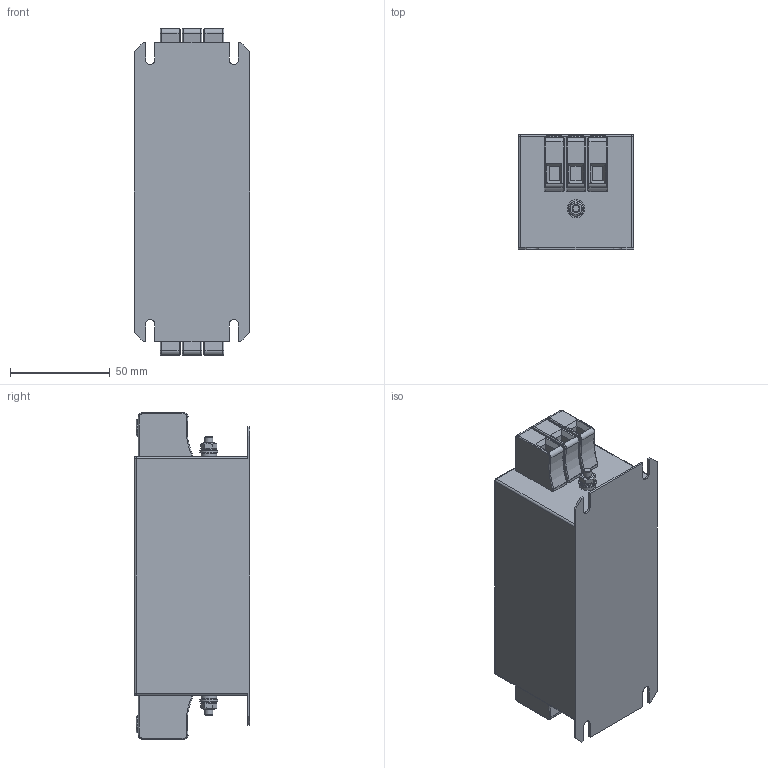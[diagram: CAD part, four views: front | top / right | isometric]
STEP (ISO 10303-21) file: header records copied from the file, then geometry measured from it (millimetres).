
FILE_DESCRIPTION((''),'2;1');
FILE_NAME('L:\INVENTOR_Projektedaten\HousingDesign\FN3270H-20-44.stp','2012-09-03T09:44:37',('Samuel.Meier'),(''),'Autodesk Inventor 2010','Autodesk Inventor 2010','');
FILE_SCHEMA(('AUTOMOTIVE_DESIGN { 1 2 10303 214 0 1 1 1 }'));
Length unit declared in the file: millimetre
Products named in the file (1): Bauteil2
Bounding box: 58 x 58 x 163.8 mm (x, y, z)
Volume: 436986.1 mm3; surface area: 48293.2 mm2
Topology: 1 solids, 3 shells, 436 faces, 1052 edges, 646 vertices
Faces by surface type: plane 234, cylinder 120, torus 48, sphere 16, bspline 10, cone 8
Full cylindrical faces by diameter (mm): 4 x4, 4.3 x2, 4.5 x6, 7.9 x2, 8.5 x6, 9 x2
Entity records: 12707 total; most frequent: CARTESIAN_POINT 2215, DIRECTION 2154, ORIENTED_EDGE 1964, EDGE_CURVE 982, AXIS2_PLACEMENT_3D 769, VERTEX_POINT 634, VECTOR 616, LINE 616
